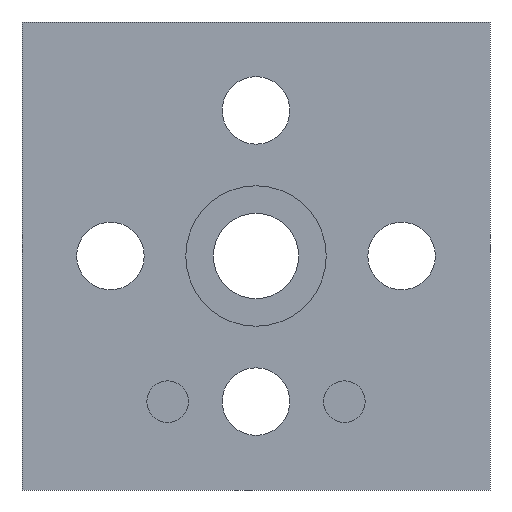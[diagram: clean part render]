
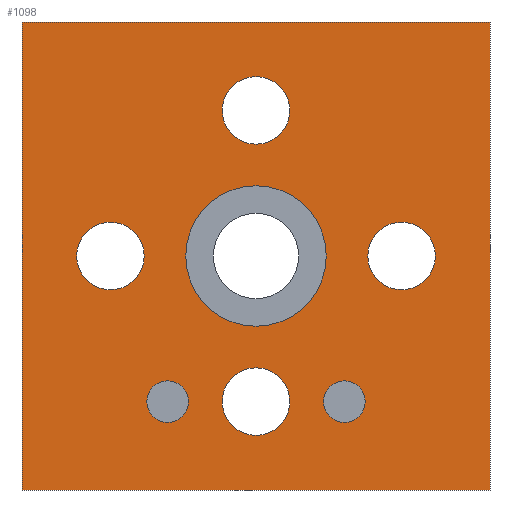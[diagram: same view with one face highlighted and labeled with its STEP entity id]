
A CAD part, front view. The second image highlights one B-rep face of the part: STEP entity #1098.
In plain terms, the highlighted planar face has unit normal (0, -1, 0).
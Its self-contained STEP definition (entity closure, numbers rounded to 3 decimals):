
#1=DIRECTION('',(0.,0.,1.));
#2=VECTOR('',#1,45.);
#3=CARTESIAN_POINT('',(-22.5,0.,-22.5));
#4=LINE('',#3,#2);
#5=DIRECTION('',(1.,0.,0.));
#6=VECTOR('',#5,45.);
#7=CARTESIAN_POINT('',(-22.5,0.,22.5));
#8=LINE('',#7,#6);
#9=DIRECTION('',(0.,0.,-1.));
#10=VECTOR('',#9,45.);
#11=CARTESIAN_POINT('',(22.5,0.,22.5));
#12=LINE('',#11,#10);
#13=DIRECTION('',(-1.,0.,0.));
#14=VECTOR('',#13,45.);
#15=CARTESIAN_POINT('',(22.5,0.,-22.5));
#16=LINE('',#15,#14);
#17=CARTESIAN_POINT('',(0.,0.,-14.));
#18=DIRECTION('',(0.,1.,0.));
#19=DIRECTION('',(1.,0.,0.));
#20=AXIS2_PLACEMENT_3D('',#17,#18,#19);
#22=CARTESIAN_POINT('',(0.,0.,-14.));
#23=DIRECTION('',(0.,1.,0.));
#24=DIRECTION('',(-1.,0.,0.));
#25=AXIS2_PLACEMENT_3D('',#22,#23,#24);
#27=CARTESIAN_POINT('',(14.,0.,0.));
#28=DIRECTION('',(0.,1.,0.));
#29=DIRECTION('',(1.,0.,0.));
#30=AXIS2_PLACEMENT_3D('',#27,#28,#29);
#32=CARTESIAN_POINT('',(14.,0.,0.));
#33=DIRECTION('',(0.,1.,0.));
#34=DIRECTION('',(-1.,0.,0.));
#35=AXIS2_PLACEMENT_3D('',#32,#33,#34);
#37=CARTESIAN_POINT('',(0.,0.,14.));
#38=DIRECTION('',(0.,1.,0.));
#39=DIRECTION('',(1.,0.,0.));
#40=AXIS2_PLACEMENT_3D('',#37,#38,#39);
#42=CARTESIAN_POINT('',(0.,0.,14.));
#43=DIRECTION('',(0.,1.,0.));
#44=DIRECTION('',(-1.,0.,0.));
#45=AXIS2_PLACEMENT_3D('',#42,#43,#44);
#47=CARTESIAN_POINT('',(-14.,0.,0.));
#48=DIRECTION('',(0.,1.,0.));
#49=DIRECTION('',(1.,0.,0.));
#50=AXIS2_PLACEMENT_3D('',#47,#48,#49);
#52=CARTESIAN_POINT('',(-14.,0.,0.));
#53=DIRECTION('',(0.,1.,0.));
#54=DIRECTION('',(-1.,0.,0.));
#55=AXIS2_PLACEMENT_3D('',#52,#53,#54);
#57=CARTESIAN_POINT('',(-8.5,0.,-14.));
#58=DIRECTION('',(0.,-1.,0.));
#59=DIRECTION('',(-1.,0.,0.));
#60=AXIS2_PLACEMENT_3D('',#57,#58,#59);
#62=CARTESIAN_POINT('',(-8.5,0.,-14.));
#63=DIRECTION('',(0.,-1.,0.));
#64=DIRECTION('',(1.,0.,0.));
#65=AXIS2_PLACEMENT_3D('',#62,#63,#64);
#67=CARTESIAN_POINT('',(8.5,0.,-14.));
#68=DIRECTION('',(0.,-1.,0.));
#69=DIRECTION('',(-1.,0.,0.));
#70=AXIS2_PLACEMENT_3D('',#67,#68,#69);
#72=CARTESIAN_POINT('',(8.5,0.,-14.));
#73=DIRECTION('',(0.,-1.,0.));
#74=DIRECTION('',(1.,0.,0.));
#75=AXIS2_PLACEMENT_3D('',#72,#73,#74);
#77=CARTESIAN_POINT('',(0.,0.,0.));
#78=DIRECTION('',(0.,-1.,0.));
#79=DIRECTION('',(-1.,0.,0.));
#80=AXIS2_PLACEMENT_3D('',#77,#78,#79);
#82=CARTESIAN_POINT('',(0.,0.,0.));
#83=DIRECTION('',(0.,-1.,0.));
#84=DIRECTION('',(1.,0.,0.));
#85=AXIS2_PLACEMENT_3D('',#82,#83,#84);
#801=CARTESIAN_POINT('',(-22.5,0.,-22.5));
#802=CARTESIAN_POINT('',(-22.5,0.,22.5));
#803=VERTEX_POINT('',#801);
#804=VERTEX_POINT('',#802);
#805=CARTESIAN_POINT('',(22.5,0.,22.5));
#806=VERTEX_POINT('',#805);
#807=CARTESIAN_POINT('',(22.5,0.,-22.5));
#808=VERTEX_POINT('',#807);
#817=CARTESIAN_POINT('',(3.25,0.,-14.));
#818=CARTESIAN_POINT('',(-3.25,0.,-14.));
#819=VERTEX_POINT('',#817);
#820=VERTEX_POINT('',#818);
#821=CARTESIAN_POINT('',(17.25,0.,0.));
#822=CARTESIAN_POINT('',(10.75,0.,0.));
#823=VERTEX_POINT('',#821);
#824=VERTEX_POINT('',#822);
#825=CARTESIAN_POINT('',(3.25,0.,14.));
#826=CARTESIAN_POINT('',(-3.25,0.,14.));
#827=VERTEX_POINT('',#825);
#828=VERTEX_POINT('',#826);
#829=CARTESIAN_POINT('',(-10.75,0.,0.));
#830=CARTESIAN_POINT('',(-17.25,0.,0.));
#831=VERTEX_POINT('',#829);
#832=VERTEX_POINT('',#830);
#893=CARTESIAN_POINT('',(-10.5,0.,-14.));
#894=CARTESIAN_POINT('',(-6.5,0.,-14.));
#895=VERTEX_POINT('',#893);
#896=VERTEX_POINT('',#894);
#897=CARTESIAN_POINT('',(6.5,0.,-14.));
#898=CARTESIAN_POINT('',(10.5,0.,-14.));
#899=VERTEX_POINT('',#897);
#900=VERTEX_POINT('',#898);
#905=CARTESIAN_POINT('',(-6.75,0.,0.));
#906=CARTESIAN_POINT('',(6.75,0.,0.));
#907=VERTEX_POINT('',#905);
#908=VERTEX_POINT('',#906);
#1041=CARTESIAN_POINT('',(0.,0.,0.));
#1042=DIRECTION('',(0.,1.,0.));
#1043=DIRECTION('',(1.,0.,0.));
#1044=AXIS2_PLACEMENT_3D('',#1041,#1042,#1043);
#1045=PLANE('',#1044);
#1047=ORIENTED_EDGE('',*,*,#1046,.T.);
#1049=ORIENTED_EDGE('',*,*,#1048,.T.);
#1051=ORIENTED_EDGE('',*,*,#1050,.T.);
#1053=ORIENTED_EDGE('',*,*,#1052,.T.);
#1054=EDGE_LOOP('',(#1047,#1049,#1051,#1053));
#1055=FACE_OUTER_BOUND('',#1054,.F.);
#1057=ORIENTED_EDGE('',*,*,#1056,.F.);
#1059=ORIENTED_EDGE('',*,*,#1058,.F.);
#1060=EDGE_LOOP('',(#1057,#1059));
#1061=FACE_BOUND('',#1060,.F.);
#1063=ORIENTED_EDGE('',*,*,#1062,.F.);
#1065=ORIENTED_EDGE('',*,*,#1064,.F.);
#1066=EDGE_LOOP('',(#1063,#1065));
#1067=FACE_BOUND('',#1066,.F.);
#1069=ORIENTED_EDGE('',*,*,#1068,.F.);
#1071=ORIENTED_EDGE('',*,*,#1070,.F.);
#1072=EDGE_LOOP('',(#1069,#1071));
#1073=FACE_BOUND('',#1072,.F.);
#1075=ORIENTED_EDGE('',*,*,#1074,.F.);
#1077=ORIENTED_EDGE('',*,*,#1076,.F.);
#1078=EDGE_LOOP('',(#1075,#1077));
#1079=FACE_BOUND('',#1078,.F.);
#1081=ORIENTED_EDGE('',*,*,#1080,.T.);
#1083=ORIENTED_EDGE('',*,*,#1082,.T.);
#1084=EDGE_LOOP('',(#1081,#1083));
#1085=FACE_BOUND('',#1084,.F.);
#1087=ORIENTED_EDGE('',*,*,#1086,.T.);
#1089=ORIENTED_EDGE('',*,*,#1088,.T.);
#1090=EDGE_LOOP('',(#1087,#1089));
#1091=FACE_BOUND('',#1090,.F.);
#1093=ORIENTED_EDGE('',*,*,#1092,.T.);
#1095=ORIENTED_EDGE('',*,*,#1094,.T.);
#1096=EDGE_LOOP('',(#1093,#1095));
#1097=FACE_BOUND('',#1096,.F.);
#1098=ADVANCED_FACE('',(#1055,#1061,#1067,#1073,#1079,#1085,#1091,#1097),#1045,
.F.);
#21=CIRCLE('',#20,3.25);
#26=CIRCLE('',#25,3.25);
#31=CIRCLE('',#30,3.25);
#36=CIRCLE('',#35,3.25);
#41=CIRCLE('',#40,3.25);
#46=CIRCLE('',#45,3.25);
#51=CIRCLE('',#50,3.25);
#56=CIRCLE('',#55,3.25);
#61=CIRCLE('',#60,2.);
#66=CIRCLE('',#65,2.);
#71=CIRCLE('',#70,2.);
#76=CIRCLE('',#75,2.);
#81=CIRCLE('',#80,6.75);
#86=CIRCLE('',#85,6.75);
#1046=EDGE_CURVE('',#803,#804,#4,.T.);
#1048=EDGE_CURVE('',#804,#806,#8,.T.);
#1050=EDGE_CURVE('',#806,#808,#12,.T.);
#1052=EDGE_CURVE('',#808,#803,#16,.T.);
#1056=EDGE_CURVE('',#819,#820,#21,.T.);
#1058=EDGE_CURVE('',#820,#819,#26,.T.);
#1062=EDGE_CURVE('',#823,#824,#31,.T.);
#1064=EDGE_CURVE('',#824,#823,#36,.T.);
#1068=EDGE_CURVE('',#827,#828,#41,.T.);
#1070=EDGE_CURVE('',#828,#827,#46,.T.);
#1074=EDGE_CURVE('',#831,#832,#51,.T.);
#1076=EDGE_CURVE('',#832,#831,#56,.T.);
#1080=EDGE_CURVE('',#895,#896,#61,.T.);
#1082=EDGE_CURVE('',#896,#895,#66,.T.);
#1086=EDGE_CURVE('',#899,#900,#71,.T.);
#1088=EDGE_CURVE('',#900,#899,#76,.T.);
#1092=EDGE_CURVE('',#907,#908,#81,.T.);
#1094=EDGE_CURVE('',#908,#907,#86,.T.);
